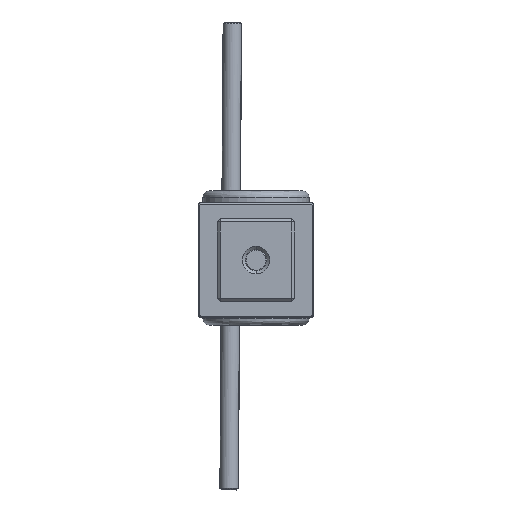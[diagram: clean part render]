
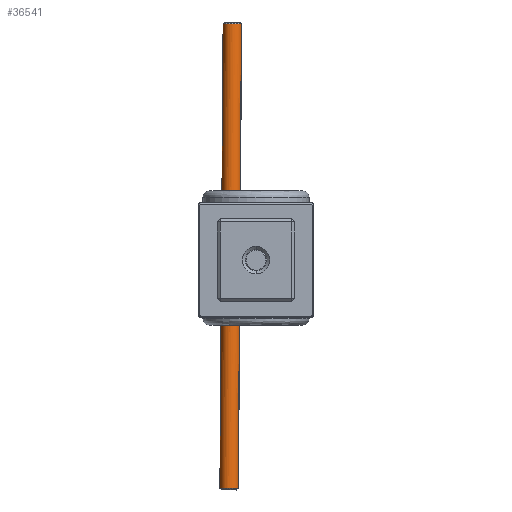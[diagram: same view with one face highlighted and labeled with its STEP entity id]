
A CAD part, front view. The second image highlights one B-rep face of the part: STEP entity #36541.
In plain terms, the highlighted cylindrical face has radius 2.99 mm (diameter 5.98 mm), a partial arc.
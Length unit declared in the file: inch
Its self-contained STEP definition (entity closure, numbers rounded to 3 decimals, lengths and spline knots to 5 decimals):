
#2250 = AXIS2_PLACEMENT_3D ( 'NONE', #53775, #64485, #5277 ) ;
#4975 = CARTESIAN_POINT ( 'NONE',  ( 0., 0., 0.01969 ) ) ;
#5277 = DIRECTION ( 'NONE',  ( -1., 0., 0. ) ) ;
#5822 = DIRECTION ( 'NONE',  ( -1., 0., 0. ) ) ;
#6538 = VECTOR ( 'NONE', #62758, 39.37008 ) ;
#15073 = EDGE_CURVE ( 'NONE', #37671, #57422, #23952, .T. ) ;
#21755 = DIRECTION ( 'NONE',  ( -1., 0., 0. ) ) ;
#23952 = LINE ( 'NONE', #29644, #29388 ) ;
#25095 = CARTESIAN_POINT ( 'NONE',  ( 0.11772, 0., 0.01969 ) ) ;
#25244 = EDGE_CURVE ( 'NONE', #57422, #52176, #58895, .T. ) ;
#26738 = DIRECTION ( 'NONE',  ( 0., 0., 1. ) ) ;
#29388 = VECTOR ( 'NONE', #65420, 39.37008 ) ;
#29644 = CARTESIAN_POINT ( 'NONE',  ( -0.11772, 0., 5.90551 ) ) ;
#30436 = EDGE_CURVE ( 'NONE', #52067, #52176, #62406, .T. ) ;
#30553 = ORIENTED_EDGE ( 'NONE', *, *, #25244, .T. ) ;
#32195 = EDGE_CURVE ( 'NONE', #52067, #37671, #63732, .T. ) ;
#36541 = ADVANCED_FACE ( 'NONE', ( #53970 ), #37212, .T. ) ;
#36729 = AXIS2_PLACEMENT_3D ( 'NONE', #54669, #70048, #5822 ) ;
#37212 = CYLINDRICAL_SURFACE ( 'NONE', #36729, 0.11772 ) ;
#37671 = VERTEX_POINT ( 'NONE', #64867 ) ;
#41349 = CARTESIAN_POINT ( 'NONE',  ( 0.11772, 0., 5.90551 ) ) ;
#46384 = AXIS2_PLACEMENT_3D ( 'NONE', #4975, #26738, #21755 ) ;
#47169 = CARTESIAN_POINT ( 'NONE',  ( 0.11772, 0., 5.88583 ) ) ;
#50504 = ORIENTED_EDGE ( 'NONE', *, *, #30436, .F. ) ;
#51551 = ORIENTED_EDGE ( 'NONE', *, *, #32195, .T. ) ;
#52067 = VERTEX_POINT ( 'NONE', #47169 ) ;
#52176 = VERTEX_POINT ( 'NONE', #25095 ) ;
#53775 = CARTESIAN_POINT ( 'NONE',  ( 0., 0., 5.88583 ) ) ;
#53970 = FACE_OUTER_BOUND ( 'NONE', #67066, .T. ) ;
#54669 = CARTESIAN_POINT ( 'NONE',  ( 0., 0., 5.90551 ) ) ;
#57422 = VERTEX_POINT ( 'NONE', #69680 ) ;
#58487 = ORIENTED_EDGE ( 'NONE', *, *, #15073, .T. ) ;
#58895 = CIRCLE ( 'NONE', #46384, 0.11772 ) ;
#62406 = LINE ( 'NONE', #41349, #6538 ) ;
#62758 = DIRECTION ( 'NONE',  ( 0., 0., -1. ) ) ;
#63732 = CIRCLE ( 'NONE', #2250, 0.11772 ) ;
#64485 = DIRECTION ( 'NONE',  ( 0., 0., -1. ) ) ;
#64867 = CARTESIAN_POINT ( 'NONE',  ( -0.11772, 0., 5.88583 ) ) ;
#65420 = DIRECTION ( 'NONE',  ( 0., 0., -1. ) ) ;
#67066 = EDGE_LOOP ( 'NONE', ( #50504, #51551, #58487, #30553 ) ) ;
#69680 = CARTESIAN_POINT ( 'NONE',  ( -0.11772, 0., 0.01969 ) ) ;
#70048 = DIRECTION ( 'NONE',  ( 0., 0., -1. ) ) ;
